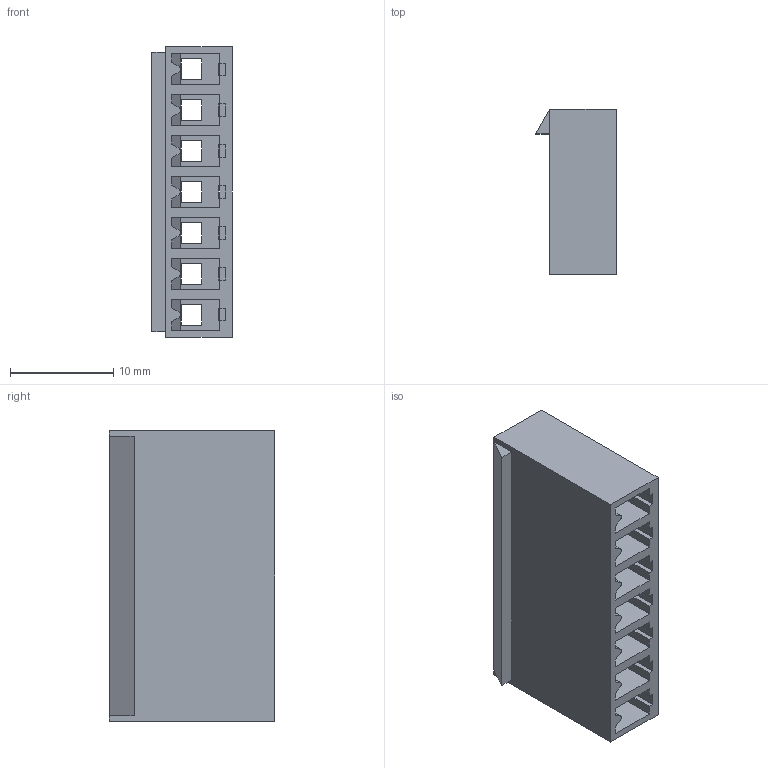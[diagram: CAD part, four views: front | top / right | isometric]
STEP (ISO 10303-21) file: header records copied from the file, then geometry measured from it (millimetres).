
FILE_DESCRIPTION (( 'STEP AP203' ), '1' );
FILE_NAME ('HC-3.96-7Y-05.STEP', '2024-08-08T00:57:53', ( '' ), ( '' ), 'SwSTEP 2.0', 'SolidWorks 2022', '' );
FILE_SCHEMA (( 'CONFIG_CONTROL_DESIGN' ));
Length unit declared in the file: millimetre
Products named in the file (1): HC-3.96-7Y-05
Bounding box: 7.8 x 16 x 28.12 mm (x, y, z)
Volume: 1568.8 mm3; surface area: 3003.6 mm2
Topology: 1 solids, 1 shells, 192 faces, 554 edges, 357 vertices
Faces by surface type: plane 185, cylinder 7
Entity records: 6262 total; most frequent: CARTESIAN_POINT 1146, ORIENTED_EDGE 1108, DIRECTION 933, EDGE_CURVE 554, VECTOR 533, LINE 533, VERTEX_POINT 357, EDGE_LOOP 213
